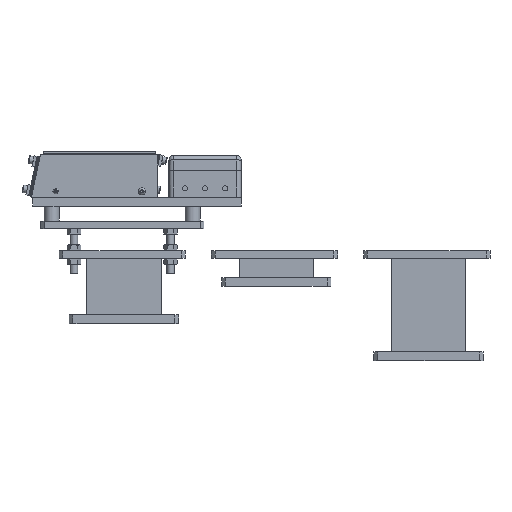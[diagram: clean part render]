
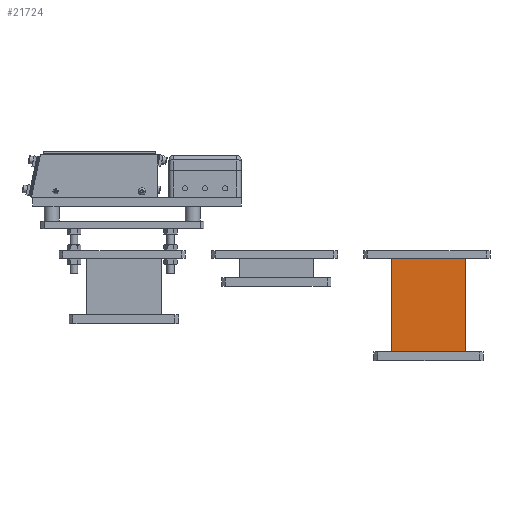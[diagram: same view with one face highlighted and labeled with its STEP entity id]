
A CAD part, front view. The second image highlights one B-rep face of the part: STEP entity #21724.
In plain terms, the highlighted planar face has unit normal (0, -1, 0).
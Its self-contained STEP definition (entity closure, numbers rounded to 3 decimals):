
#13 = LINE ( 'NONE', #20275, #12402 ) ;
#2529 = VECTOR ( 'NONE', #7980, 1000. ) ;
#3218 = EDGE_CURVE ( 'NONE', #21509, #16152, #29925, .T. ) ;
#3600 = VERTEX_POINT ( 'NONE', #36126 ) ;
#4498 = ORIENTED_EDGE ( 'NONE', *, *, #22512, .F. ) ;
#4838 = CARTESIAN_POINT ( 'NONE',  ( 459.902, -6., 309.715 ) ) ;
#5012 = CARTESIAN_POINT ( 'NONE',  ( 459.902, -6., 233.715 ) ) ;
#6409 = DIRECTION ( 'NONE',  ( -1., 0., 0. ) ) ;
#6820 = DIRECTION ( 'NONE',  ( 1., 0., 0. ) ) ;
#7980 = DIRECTION ( 'NONE',  ( 0., 0., 1. ) ) ;
#8689 = CARTESIAN_POINT ( 'NONE',  ( 359.902, -6., 309.715 ) ) ;
#10938 = FACE_OUTER_BOUND ( 'NONE', #28596, .T. ) ;
#12120 = CARTESIAN_POINT ( 'NONE',  ( 459.902, -6., 183.715 ) ) ;
#12402 = VECTOR ( 'NONE', #17031, 1000. ) ;
#13899 = LINE ( 'NONE', #34132, #2529 ) ;
#14155 = AXIS2_PLACEMENT_3D ( 'NONE', #5012, #16873, #31175 ) ;
#16152 = VERTEX_POINT ( 'NONE', #4838 ) ;
#16873 = DIRECTION ( 'NONE',  ( 0., 1., 0. ) ) ;
#17031 = DIRECTION ( 'NONE',  ( 0., 0., -1. ) ) ;
#20275 = CARTESIAN_POINT ( 'NONE',  ( 459.902, -6., 233.715 ) ) ;
#21203 = ORIENTED_EDGE ( 'NONE', *, *, #24267, .F. ) ;
#21509 = VERTEX_POINT ( 'NONE', #8689 ) ;
#21724 = ADVANCED_FACE ( 'NONE', ( #10938 ), #22790, .F. ) ;
#22512 = EDGE_CURVE ( 'NONE', #26858, #21509, #13899, .T. ) ;
#22790 = PLANE ( 'NONE',  #14155 ) ;
#23833 = CARTESIAN_POINT ( 'NONE',  ( 459.902, -6., 309.715 ) ) ;
#23992 = ORIENTED_EDGE ( 'NONE', *, *, #3218, .F. ) ;
#24267 = EDGE_CURVE ( 'NONE', #3600, #26858, #33118, .T. ) ;
#26858 = VERTEX_POINT ( 'NONE', #30925 ) ;
#28106 = EDGE_CURVE ( 'NONE', #16152, #3600, #13, .T. ) ;
#28596 = EDGE_LOOP ( 'NONE', ( #4498, #21203, #33584, #23992 ) ) ;
#29520 = VECTOR ( 'NONE', #6820, 1000. ) ;
#29925 = LINE ( 'NONE', #23833, #29520 ) ;
#30925 = CARTESIAN_POINT ( 'NONE',  ( 359.902, -6., 183.715 ) ) ;
#31175 = DIRECTION ( 'NONE',  ( 0., 0., 1. ) ) ;
#31451 = VECTOR ( 'NONE', #6409, 1000. ) ;
#33118 = LINE ( 'NONE', #12120, #31451 ) ;
#33584 = ORIENTED_EDGE ( 'NONE', *, *, #28106, .F. ) ;
#34132 = CARTESIAN_POINT ( 'NONE',  ( 359.902, -6., 233.715 ) ) ;
#36126 = CARTESIAN_POINT ( 'NONE',  ( 459.902, -6., 183.715 ) ) ;
